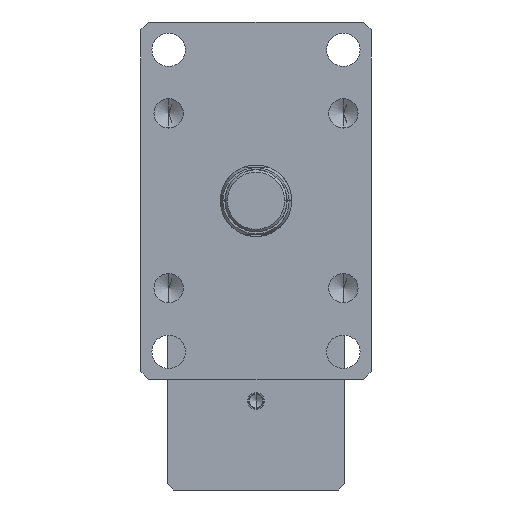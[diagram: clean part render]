
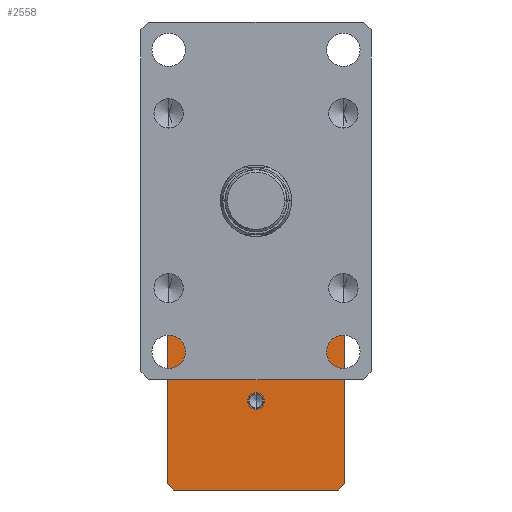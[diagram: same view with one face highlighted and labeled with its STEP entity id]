
A CAD part, left-side view. The second image highlights one B-rep face of the part: STEP entity #2558.
In plain terms, the highlighted planar face has unit normal (-1, 0, 0).
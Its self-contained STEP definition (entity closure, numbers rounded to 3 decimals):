
#218 = ORIENTED_EDGE ( 'NONE', *, *, #12394, .T. ) ;
#271 = VECTOR ( 'NONE', #2328, 1000. ) ;
#295 = VERTEX_POINT ( 'NONE', #9520 ) ;
#305 = VECTOR ( 'NONE', #556, 1000. ) ;
#556 = DIRECTION ( 'NONE',  ( 0., 0.707, -0.707 ) ) ;
#797 = CARTESIAN_POINT ( 'NONE',  ( 275., -56., -182. ) ) ;
#873 = EDGE_CURVE ( 'NONE', #5017, #11614, #10919, .T. ) ;
#988 = EDGE_CURVE ( 'NONE', #295, #11802, #9729, .T. ) ;
#996 = VERTEX_POINT ( 'NONE', #3727 ) ;
#1096 = ORIENTED_EDGE ( 'NONE', *, *, #3833, .T. ) ;
#1146 = CARTESIAN_POINT ( 'NONE',  ( 275., -56., -182. ) ) ;
#1157 = ORIENTED_EDGE ( 'NONE', *, *, #9059, .T. ) ;
#1264 = AXIS2_PLACEMENT_3D ( 'NONE', #11367, #5486, #12382 ) ;
#1321 = ORIENTED_EDGE ( 'NONE', *, *, #12286, .T. ) ;
#1324 = DIRECTION ( 'NONE',  ( 0., 0., 1. ) ) ;
#1379 = VERTEX_POINT ( 'NONE', #7762 ) ;
#1458 = EDGE_CURVE ( 'NONE', #2537, #1876, #12629, .T. ) ;
#1478 = ORIENTED_EDGE ( 'NONE', *, *, #1458, .T. ) ;
#1489 = ORIENTED_EDGE ( 'NONE', *, *, #6283, .T. ) ;
#1558 = CARTESIAN_POINT ( 'NONE',  ( 275., 52., -70. ) ) ;
#1576 = LINE ( 'NONE', #12101, #11449 ) ;
#1710 = VERTEX_POINT ( 'NONE', #1558 ) ;
#1876 = VERTEX_POINT ( 'NONE', #5746 ) ;
#1927 = ORIENTED_EDGE ( 'NONE', *, *, #988, .F. ) ;
#2078 = ORIENTED_EDGE ( 'NONE', *, *, #873, .F. ) ;
#2081 = LINE ( 'NONE', #1146, #9386 ) ;
#2234 = EDGE_CURVE ( 'NONE', #11802, #295, #6736, .T. ) ;
#2328 = DIRECTION ( 'NONE',  ( 0., -0.707, -0.707 ) ) ;
#2477 = CARTESIAN_POINT ( 'NONE',  ( 275., 56., -178. ) ) ;
#2537 = VERTEX_POINT ( 'NONE', #11609 ) ;
#2558 = ADVANCED_FACE ( 'NONE', ( #11477, #8872 ), #12610, .F. ) ;
#2691 = ORIENTED_EDGE ( 'NONE', *, *, #7539, .F. ) ;
#2883 = LINE ( 'NONE', #4488, #305 ) ;
#3449 = CARTESIAN_POINT ( 'NONE',  ( 275., 0., -120.857 ) ) ;
#3727 = CARTESIAN_POINT ( 'NONE',  ( 275., 52., -182. ) ) ;
#3758 = DIRECTION ( 'NONE',  ( 0., 0., -1. ) ) ;
#3833 = EDGE_CURVE ( 'NONE', #5017, #996, #8185, .T. ) ;
#3845 = LINE ( 'NONE', #4310, #8819 ) ;
#3907 = LINE ( 'NONE', #5587, #11492 ) ;
#4184 = DIRECTION ( 'NONE',  ( 0., -0.707, 0.707 ) ) ;
#4310 = CARTESIAN_POINT ( 'NONE',  ( 275., -56., -74. ) ) ;
#4488 = CARTESIAN_POINT ( 'NONE',  ( 275., 56., -74. ) ) ;
#5017 = VERTEX_POINT ( 'NONE', #2477 ) ;
#5131 = DIRECTION ( 'NONE',  ( 0., 0., 1. ) ) ;
#5269 = EDGE_LOOP ( 'NONE', ( #1157, #1321, #1489, #218, #2078, #1096, #2691, #1478 ) ) ;
#5325 = CARTESIAN_POINT ( 'NONE',  ( 275., 52., -182. ) ) ;
#5400 = VECTOR ( 'NONE', #1324, 1000. ) ;
#5486 = DIRECTION ( 'NONE',  ( -1., 0., 0. ) ) ;
#5528 = EDGE_LOOP ( 'NONE', ( #11518, #1927 ) ) ;
#5587 = CARTESIAN_POINT ( 'NONE',  ( 275., -56., -182. ) ) ;
#5741 = CARTESIAN_POINT ( 'NONE',  ( 275., 0., -126. ) ) ;
#5746 = CARTESIAN_POINT ( 'NONE',  ( 275., -56., -178. ) ) ;
#6116 = AXIS2_PLACEMENT_3D ( 'NONE', #5741, #12614, #6742 ) ;
#6283 = EDGE_CURVE ( 'NONE', #10784, #1710, #1576, .T. ) ;
#6736 = CIRCLE ( 'NONE', #1264, 5.143 ) ;
#6742 = DIRECTION ( 'NONE',  ( 0., 0., 1. ) ) ;
#7004 = AXIS2_PLACEMENT_3D ( 'NONE', #797, #9696, #3758 ) ;
#7539 = EDGE_CURVE ( 'NONE', #2537, #996, #3907, .T. ) ;
#7762 = CARTESIAN_POINT ( 'NONE',  ( 275., -56., -74. ) ) ;
#8137 = CARTESIAN_POINT ( 'NONE',  ( 275., -52., -182. ) ) ;
#8185 = LINE ( 'NONE', #5325, #271 ) ;
#8281 = DIRECTION ( 'NONE',  ( 0., 0.707, 0.707 ) ) ;
#8556 = DIRECTION ( 'NONE',  ( 0., 1., 0. ) ) ;
#8819 = VECTOR ( 'NONE', #8281, 1000. ) ;
#8872 = FACE_OUTER_BOUND ( 'NONE', #5269, .T. ) ;
#9059 = EDGE_CURVE ( 'NONE', #1876, #1379, #2081, .T. ) ;
#9164 = DIRECTION ( 'NONE',  ( 0., 1., 0. ) ) ;
#9386 = VECTOR ( 'NONE', #5131, 1000. ) ;
#9520 = CARTESIAN_POINT ( 'NONE',  ( 275., 0., -131.143 ) ) ;
#9696 = DIRECTION ( 'NONE',  ( 1., 0., 0. ) ) ;
#9729 = CIRCLE ( 'NONE', #6116, 5.143 ) ;
#9990 = VECTOR ( 'NONE', #4184, 1000. ) ;
#10784 = VERTEX_POINT ( 'NONE', #12141 ) ;
#10919 = LINE ( 'NONE', #11150, #5400 ) ;
#10981 = CARTESIAN_POINT ( 'NONE',  ( 275., 56., -74. ) ) ;
#11150 = CARTESIAN_POINT ( 'NONE',  ( 275., 56., -182. ) ) ;
#11367 = CARTESIAN_POINT ( 'NONE',  ( 275., 0., -126. ) ) ;
#11449 = VECTOR ( 'NONE', #9164, 1000. ) ;
#11477 = FACE_BOUND ( 'NONE', #5528, .T. ) ;
#11492 = VECTOR ( 'NONE', #8556, 1000. ) ;
#11518 = ORIENTED_EDGE ( 'NONE', *, *, #2234, .F. ) ;
#11609 = CARTESIAN_POINT ( 'NONE',  ( 275., -52., -182. ) ) ;
#11614 = VERTEX_POINT ( 'NONE', #10981 ) ;
#11802 = VERTEX_POINT ( 'NONE', #3449 ) ;
#12101 = CARTESIAN_POINT ( 'NONE',  ( 275., -56., -70. ) ) ;
#12141 = CARTESIAN_POINT ( 'NONE',  ( 275., -52., -70. ) ) ;
#12286 = EDGE_CURVE ( 'NONE', #1379, #10784, #3845, .T. ) ;
#12382 = DIRECTION ( 'NONE',  ( 0., 0., 1. ) ) ;
#12394 = EDGE_CURVE ( 'NONE', #1710, #11614, #2883, .T. ) ;
#12610 = PLANE ( 'NONE',  #7004 ) ;
#12614 = DIRECTION ( 'NONE',  ( -1., 0., 0. ) ) ;
#12629 = LINE ( 'NONE', #8137, #9990 ) ;
